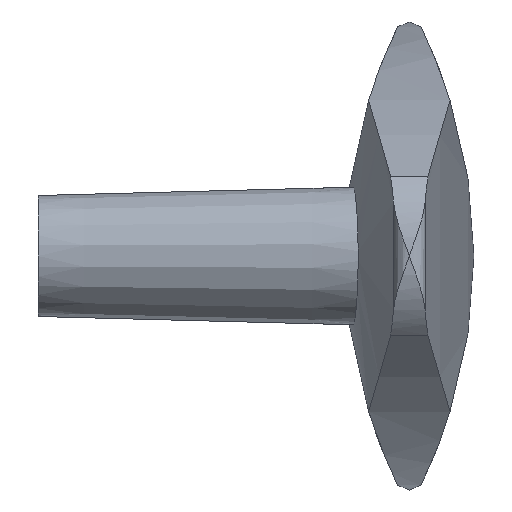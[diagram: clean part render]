
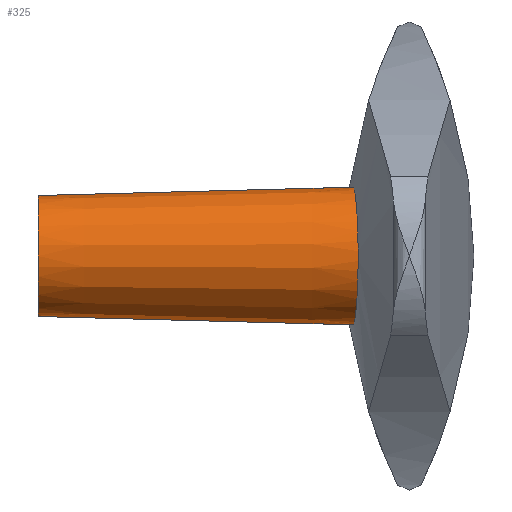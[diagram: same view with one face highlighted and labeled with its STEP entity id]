
A CAD part, left-side view. The second image highlights one B-rep face of the part: STEP entity #325.
In plain terms, the highlighted conical face has half-angle 1.5 degrees and reference radius 3.75 mm.
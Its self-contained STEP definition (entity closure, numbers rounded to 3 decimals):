
#229 = VERTEX_POINT( '', #615 );
#325 = ADVANCED_FACE( '', ( #721 ), #722, .T. );
#415 = EDGE_CURVE( '', #571, #531, #819, .T. );
#461 = EDGE_CURVE( '', #229, #571, #873, .T. );
#497 = EDGE_CURVE( '', #563, #229, #913, .T. );
#517 = EDGE_CURVE( '', #563, #531, #933, .T. );
#531 = VERTEX_POINT( '', #948 );
#563 = VERTEX_POINT( '', #982 );
#571 = VERTEX_POINT( '', #992 );
#615 = CARTESIAN_POINT( '', ( -0.25, 0., 3.75 ) );
#721 = FACE_OUTER_BOUND( '', #1323, .T. );
#722 = CONICAL_SURFACE( '', #1324, 3.75, 0.026 );
#819 = B_SPLINE_CURVE_WITH_KNOTS( '', 3, ( #1580, #1581, #1582, #1583, #1584, #1585, #1586, #1587, #1588, #1589, #1590, #1591, #1592, #1593, #1594, #1595, #1596, #1597, #1598, #1599, #1600, #1601, #1602, #1603, #1604, #1605, #1606, #1607, #1608, #1609, #1610, #1611, #1612, #1613, #1614 ), .UNSPECIFIED., .F., .F., ( 4, 2, 2, 2, 2, 2, 2, 2, 3, 2, 2, 2, 2, 2, 2, 2, 4 ), ( -6.436, -5.631, -4.826, -4.021, -3.216, -2.412, -1.608, -0.804, 0., 0.804, 1.609, 2.413, 3.218, 4.023, 4.827, 5.632, 6.436 ), .UNSPECIFIED. );
#873 = LINE( '', #1693, #1694 );
#913 = CIRCLE( '', #1788, 3.75 );
#933 = LINE( '', #1853, #1854 );
#948 = CARTESIAN_POINT( '', ( -0.25, -19.518, -4.261 ) );
#982 = CARTESIAN_POINT( '', ( -0.25, 0., -3.75 ) );
#992 = CARTESIAN_POINT( '', ( -0.25, -19.518, 4.261 ) );
#1323 = EDGE_LOOP( '', ( #2126, #2127, #2128, #2129 ) );
#1324 = AXIS2_PLACEMENT_3D( '', #2130, #2131, #2132 );
#1580 = CARTESIAN_POINT( '', ( -0.25, -19.518, 4.261 ) );
#1581 = CARTESIAN_POINT( '', ( -0.518, -19.535, 4.262 ) );
#1582 = CARTESIAN_POINT( '', ( -0.795, -19.554, 4.236 ) );
#1583 = CARTESIAN_POINT( '', ( -1.346, -19.591, 4.129 ) );
#1584 = CARTESIAN_POINT( '', ( -1.62, -19.609, 4.047 ) );
#1585 = CARTESIAN_POINT( '', ( -2.146, -19.646, 3.83 ) );
#1586 = CARTESIAN_POINT( '', ( -2.398, -19.664, 3.695 ) );
#1587 = CARTESIAN_POINT( '', ( -2.865, -19.699, 3.382 ) );
#1588 = CARTESIAN_POINT( '', ( -3.079, -19.715, 3.205 ) );
#1589 = CARTESIAN_POINT( '', ( -3.458, -19.743, 2.826 ) );
#1590 = CARTESIAN_POINT( '', ( -3.636, -19.757, 2.613 ) );
#1591 = CARTESIAN_POINT( '', ( -3.949, -19.781, 2.147 ) );
#1592 = CARTESIAN_POINT( '', ( -4.085, -19.792, 1.895 ) );
#1593 = CARTESIAN_POINT( '', ( -4.303, -19.81, 1.37 ) );
#1594 = CARTESIAN_POINT( '', ( -4.385, -19.816, 1.096 ) );
#1595 = CARTESIAN_POINT( '', ( -4.493, -19.825, 0.545 ) );
#1596 = CARTESIAN_POINT( '', ( -4.519, -19.827, 0.268 ) );
#1597 = CARTESIAN_POINT( '', ( -4.519, -19.827, 0. ) );
#1598 = CARTESIAN_POINT( '', ( -4.519, -19.827, -0.268 ) );
#1599 = CARTESIAN_POINT( '', ( -4.493, -19.825, -0.545 ) );
#1600 = CARTESIAN_POINT( '', ( -4.385, -19.816, -1.097 ) );
#1601 = CARTESIAN_POINT( '', ( -4.303, -19.809, -1.371 ) );
#1602 = CARTESIAN_POINT( '', ( -4.084, -19.792, -1.897 ) );
#1603 = CARTESIAN_POINT( '', ( -3.948, -19.781, -2.148 ) );
#1604 = CARTESIAN_POINT( '', ( -3.635, -19.757, -2.614 ) );
#1605 = CARTESIAN_POINT( '', ( -3.457, -19.743, -2.828 ) );
#1606 = CARTESIAN_POINT( '', ( -3.077, -19.715, -3.206 ) );
#1607 = CARTESIAN_POINT( '', ( -2.863, -19.699, -3.383 ) );
#1608 = CARTESIAN_POINT( '', ( -2.397, -19.664, -3.696 ) );
#1609 = CARTESIAN_POINT( '', ( -2.145, -19.646, -3.831 ) );
#1610 = CARTESIAN_POINT( '', ( -1.619, -19.609, -4.048 ) );
#1611 = CARTESIAN_POINT( '', ( -1.345, -19.59, -4.129 ) );
#1612 = CARTESIAN_POINT( '', ( -0.795, -19.554, -4.236 ) );
#1613 = CARTESIAN_POINT( '', ( -0.518, -19.535, -4.262 ) );
#1614 = CARTESIAN_POINT( '', ( -0.25, -19.518, -4.261 ) );
#1693 = CARTESIAN_POINT( '', ( -0.25, 0., 3.75 ) );
#1694 = VECTOR( '', #2275, 1. );
#1788 = AXIS2_PLACEMENT_3D( '', #2318, #2319, #2320 );
#1853 = CARTESIAN_POINT( '', ( -0.25, 0., -3.75 ) );
#1854 = VECTOR( '', #2322, 1. );
#2126 = ORIENTED_EDGE( '', *, *, #415, .F. );
#2127 = ORIENTED_EDGE( '', *, *, #461, .F. );
#2128 = ORIENTED_EDGE( '', *, *, #497, .F. );
#2129 = ORIENTED_EDGE( '', *, *, #517, .T. );
#2130 = CARTESIAN_POINT( '', ( -0.25, 0., 0. ) );
#2131 = DIRECTION( '', ( 0., -1., 0. ) );
#2132 = DIRECTION( '', ( 0., 0., -1. ) );
#2275 = DIRECTION( '', ( 0., -1., 0.026 ) );
#2318 = CARTESIAN_POINT( '', ( -0.25, 0., 0. ) );
#2319 = DIRECTION( '', ( 0., 1., 0. ) );
#2320 = DIRECTION( '', ( 0., 0., -1. ) );
#2322 = DIRECTION( '', ( 0., -1., -0.026 ) );
